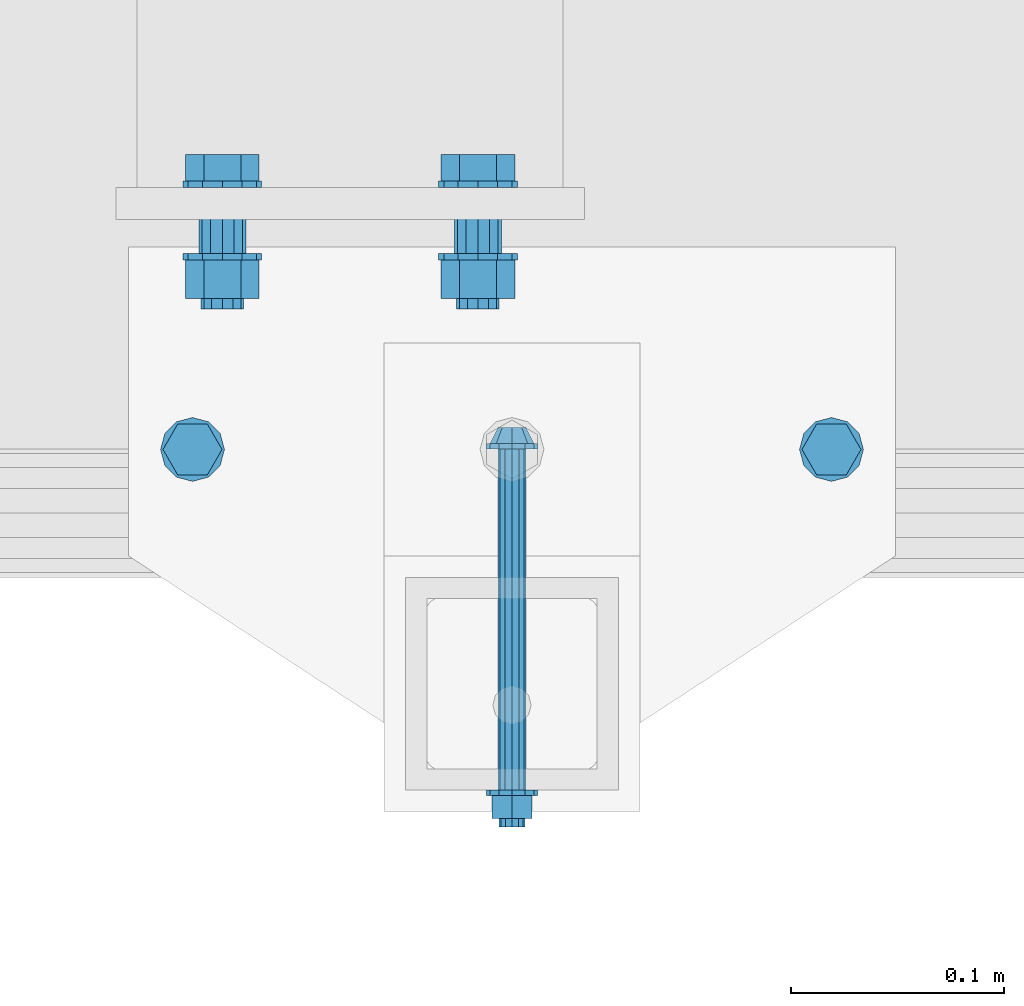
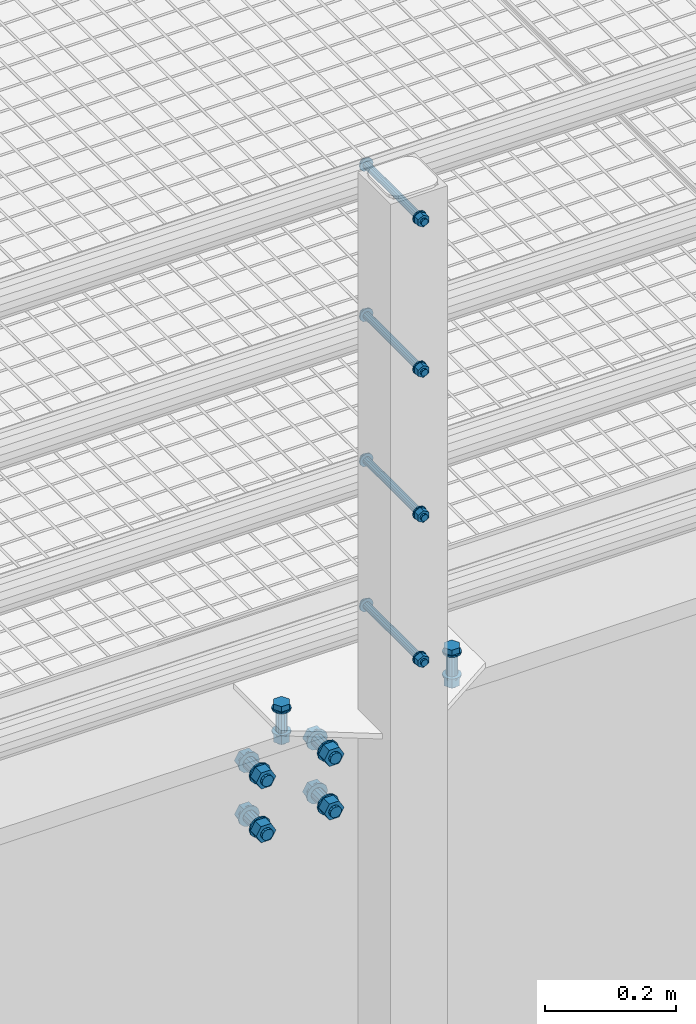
# One storey, part 9 of 1530: 6 mechanical fasteners.
"""IFC2X3 building model written with IfcOpenShell, lengths in millimetres."""

from ifc_helpers import new_model, si_unit, frame, origin_with_axes, place, context, subcontext, project, spatial, faceted_brep, source, transform, mapped, material, type_object, element, save


model = new_model("IFC2X3")

# Units and contexts
model_context = context("Model", 3, precision=1e-05, world=origin_with_axes())
body_context = subcontext(model_context, "Body", "Model", "MODEL_VIEW")
ifc_project = project(units=[si_unit("LENGTHUNIT", "METRE", prefix="MILLI"), si_unit("AREAUNIT", "SQUARE_METRE"), si_unit("VOLUMEUNIT", "CUBIC_METRE"), si_unit("MASSUNIT", "GRAM", prefix="KILO"), si_unit("TIMEUNIT", "SECOND"), si_unit("PLANEANGLEUNIT", "RADIAN"), si_unit("SOLIDANGLEUNIT", "STERADIAN"), si_unit("THERMODYNAMICTEMPERATUREUNIT", "DEGREE_CELSIUS"), si_unit("LUMINOUSINTENSITYUNIT", "LUMEN")], contexts=[model_context])

# Site, building, storey
site_placement = place(None, origin_with_axes())
site = spatial("IfcSite", under=ifc_project, at=site_placement, Name="Brattvåg", CompositionType="ELEMENT")
building_placement = place(site_placement, origin_with_axes())
building = spatial("IfcBuilding", under=site, at=building_placement, Name="Undefined", CompositionType="ELEMENT")
storey_placement = place(building_placement, origin_with_axes())
storey = spatial("IfcBuildingStorey", under=building, at=storey_placement, Name="Undefined", CompositionType="ELEMENT", Elevation=0.0)

# Mechanical fasteners
ifc_material = material(Name="8")
mechanical_fastener_type = type_object("IfcMechanicalFastenerType", Name="Bolt assembly")
shared_shape_1 = source(origin_with_axes(), body_context, "Body", "Brep", [
    faceted_brep([(6.49435320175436, -9.99984019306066, 0.0), (4.59220118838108, -9.99984019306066, 4.59220118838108), (3.97664443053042e-16, -9.99984019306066, 6.49435320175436), (-4.59220118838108, -9.99984019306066, 4.59220118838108), (-6.49435320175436, -9.99984019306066, 7.95328886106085e-16), (-4.59220118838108, -9.99984019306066, -4.59220118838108), (-1.19299332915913e-15, -9.99984019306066, -6.49435320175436), (4.59220118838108, -9.99984019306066, -4.59220118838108), (7.34846922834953, -2.49984019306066, -7.34846922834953), (-1.90903542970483e-15, -2.49984019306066, -10.3923048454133), (-7.34846922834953, -2.49984019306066, -7.34846922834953), (-10.3923048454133, -2.49984019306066, 1.27269028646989e-15), (-7.34846922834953, -2.49984019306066, 7.34846922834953), (6.36345143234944e-16, -2.49984019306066, 10.3923048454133), (7.34846922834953, -2.49984019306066, 7.34846922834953), (10.3923048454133, -2.49984019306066, 0.0), (6.0, -2.49984019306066, 0.0), (5.19615242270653, -2.49984019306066, 3.00000000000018), (2.99999999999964, -2.49984019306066, 5.19615242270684), (-6.21801588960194e-13, -2.49984019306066, 6.0), (-3.00000000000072, -2.49984019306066, 5.19615242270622), (-5.19615242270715, -2.49984019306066, 2.9999999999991), (-6.0, -2.49984019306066, -1.24360317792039e-12), (-5.19615242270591, -2.49984019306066, -3.00000000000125), (-2.99999999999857, -2.49984019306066, -5.19615242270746), (1.85874342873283e-12, -2.49984019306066, -6.0), (3.00000000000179, -2.49984019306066, -5.1961524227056), (5.19615242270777, -2.49984019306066, -2.99999999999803), (5.19615242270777, 177.500159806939, -2.99999999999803), (3.00000000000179, 177.500159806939, -5.1961524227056), (1.85874342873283e-12, 177.500159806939, -6.0), (-2.99999999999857, 177.500159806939, -5.19615242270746), (-5.19615242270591, 177.500159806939, -3.00000000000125), (-6.0, 177.500159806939, -1.24360317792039e-12), (-5.19615242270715, 177.500159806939, 2.9999999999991), (-3.00000000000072, 177.500159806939, 5.19615242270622), (-6.21801588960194e-13, 177.500159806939, 6.0), (2.99999999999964, 177.500159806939, 5.19615242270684), (5.19615242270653, 177.500159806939, 3.00000000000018), (6.0, 177.500159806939, 0.0), (12.0, -2.49984019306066, 0.0), (10.3923048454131, -2.49984019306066, 6.00000000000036), (5.99999999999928, -2.49984019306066, 10.3923048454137), (-1.24360317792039e-12, -2.49984019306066, 12.0), (-6.00000000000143, -2.49984019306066, 10.3923048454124), (-10.3923048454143, -2.49984019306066, 5.99999999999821), (-12.0, -2.49984019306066, -2.48720635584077e-12), (-10.3923048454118, -2.49984019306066, -6.00000000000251), (-5.99999999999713, -2.49984019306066, -10.3923048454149), (3.71748685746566e-12, -2.49984019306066, -12.0), (6.00000000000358, -2.49984019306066, -10.3923048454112), (10.3923048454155, -2.49984019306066, -5.99999999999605), (10.3923048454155, 0.000159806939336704, -5.99999999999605), (6.00000000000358, 0.000159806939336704, -10.3923048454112), (3.71748685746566e-12, 0.000159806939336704, -12.0), (-5.99999999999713, 0.000159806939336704, -10.3923048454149), (-10.3923048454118, 0.000159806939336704, -6.00000000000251), (-12.0, 0.000159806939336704, -2.48720635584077e-12), (-10.3923048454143, 0.000159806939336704, 5.99999999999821), (-6.00000000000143, 0.000159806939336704, 10.3923048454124), (-1.24360317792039e-12, 0.000159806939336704, 12.0), (5.99999999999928, 0.000159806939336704, 10.3923048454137), (10.3923048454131, 0.000159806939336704, 6.00000000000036), (12.0, 0.000159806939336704, 0.0), (12.0, 160.299998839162, 0.0), (10.3923048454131, 160.299998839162, 6.00000000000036), (5.99999999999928, 160.299998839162, 10.3923048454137), (-1.24360317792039e-12, 160.299998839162, 12.0), (-6.00000000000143, 160.299998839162, 10.3923048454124), (-10.3923048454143, 160.299998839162, 5.99999999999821), (-12.0, 160.299998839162, -2.48720635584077e-12), (-10.3923048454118, 160.299998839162, -6.00000000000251), (-5.99999999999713, 160.299998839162, -10.3923048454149), (3.71748685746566e-12, 160.299998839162, -12.0), (6.00000000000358, 160.299998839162, -10.3923048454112), (10.3923048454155, 160.299998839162, -5.99999999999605), (10.3923048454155, 162.799998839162, -5.99999999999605), (6.00000000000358, 162.799998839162, -10.3923048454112), (3.71748685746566e-12, 162.799998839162, -12.0), (-5.99999999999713, 162.799998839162, -10.3923048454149), (-10.3923048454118, 162.799998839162, -6.00000000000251), (-12.0, 162.799998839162, -2.48720635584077e-12), (-10.3923048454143, 162.799998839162, 5.99999999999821), (-6.00000000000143, 162.799998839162, 10.3923048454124), (-1.24360317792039e-12, 162.799998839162, 12.0), (5.99999999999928, 162.799998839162, 10.3923048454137), (10.3923048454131, 162.799998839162, 6.00000000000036), (12.0, 162.799998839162, 0.0), (10.9696551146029, 162.799998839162, 0.0), (5.48482755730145, 162.799998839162, 9.5), (-5.48482755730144, 162.799998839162, 9.5), (-10.9696551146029, 162.799998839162, 1.34339530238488e-15), (-5.48482755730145, 162.799998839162, -9.5), (5.48482755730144, 162.799998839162, -9.5), (5.48482755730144, 173.599999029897, -9.5), (-5.48482755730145, 173.599999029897, -9.5), (-10.9696551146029, 173.599999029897, 1.34339530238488e-15), (-5.48482755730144, 173.599999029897, 9.5), (5.48482755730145, 173.599999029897, 9.5), (10.9696551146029, 173.599999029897, 0.0)], [[[0, 1, 2, 3, 4, 5, 6, 7]], [[8, 9, 10, 11, 12, 13, 14, 15]], [[0, 15, 14, 1]], [[1, 14, 13, 2]], [[2, 13, 12, 3]], [[3, 12, 11, 4]], [[4, 11, 10, 5]], [[5, 10, 9, 6]], [[6, 9, 8, 7]], [[7, 8, 15, 0]], [[16, 17, 18, 19, 20, 21, 22, 23, 24, 25, 26, 27]], [[28, 29, 30, 31, 32, 33, 34, 35, 36, 37, 38, 39]], [[16, 39, 38, 17]], [[17, 38, 37, 18]], [[18, 37, 36, 19]], [[19, 36, 35, 20]], [[20, 35, 34, 21]], [[21, 34, 33, 22]], [[22, 33, 32, 23]], [[23, 32, 31, 24]], [[24, 31, 30, 25]], [[25, 30, 29, 26]], [[26, 29, 28, 27]], [[27, 28, 39, 16]], [[40, 41, 42, 43, 44, 45, 46, 47, 48, 49, 50, 51]], [[52, 53, 54, 55, 56, 57, 58, 59, 60, 61, 62, 63]], [[40, 63, 62, 41]], [[41, 62, 61, 42]], [[42, 61, 60, 43]], [[43, 60, 59, 44]], [[44, 59, 58, 45]], [[45, 58, 57, 46]], [[46, 57, 56, 47]], [[47, 56, 55, 48]], [[48, 55, 54, 49]], [[49, 54, 53, 50]], [[50, 53, 52, 51]], [[51, 52, 63, 40]], [[64, 65, 66, 67, 68, 69, 70, 71, 72, 73, 74, 75]], [[76, 77, 78, 79, 80, 81, 82, 83, 84, 85, 86, 87]], [[64, 87, 86, 65]], [[65, 86, 85, 66]], [[66, 85, 84, 67]], [[67, 84, 83, 68]], [[68, 83, 82, 69]], [[69, 82, 81, 70]], [[70, 81, 80, 71]], [[71, 80, 79, 72]], [[72, 79, 78, 73]], [[73, 78, 77, 74]], [[74, 77, 76, 75]], [[75, 76, 87, 64]], [[88, 89, 90, 91, 92, 93]], [[94, 95, 96, 97, 98, 99]], [[88, 99, 98, 89]], [[89, 98, 97, 90]], [[90, 97, 96, 91]], [[91, 96, 95, 92]], [[92, 95, 94, 93]], [[93, 94, 99, 88]]]),
    faceted_brep([(6.5, 0.100159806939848, 0.0), (5.62916512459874, 0.100159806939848, 3.25000000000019), (3.24999999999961, 0.100159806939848, 5.62916512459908), (-6.7361838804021e-13, 0.100159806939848, 6.5), (-3.25000000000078, 0.100159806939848, 5.6291651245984), (-5.62916512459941, 0.100159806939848, 3.24999999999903), (-6.5, 0.100159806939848, -1.34723677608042e-12), (-5.62916512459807, 0.100159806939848, -3.25000000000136), (-3.24999999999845, 0.100159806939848, -5.62916512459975), (2.01363871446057e-12, 0.100159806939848, -6.5), (3.25000000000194, 0.100159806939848, -5.62916512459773), (5.62916512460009, 0.100159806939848, -3.24999999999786), (5.62916512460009, 60.4001552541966, -3.24999999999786), (3.25000000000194, 60.4001552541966, -5.62916512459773), (2.01363871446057e-12, 60.4001552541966, -6.5), (-3.24999999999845, 60.4001552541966, -5.62916512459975), (-5.62916512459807, 60.4001552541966, -3.25000000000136), (-6.5, 60.4001552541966, -1.34723677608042e-12), (-5.62916512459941, 60.4001552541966, 3.24999999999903), (-3.25000000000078, 60.4001552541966, 5.6291651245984), (-6.7361838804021e-13, 60.4001552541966, 6.5), (3.24999999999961, 60.4001552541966, 5.62916512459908), (5.62916512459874, 60.4001552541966, 3.25000000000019), (6.5, 60.4001552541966, 0.0), (6.5, 60.1999988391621, 0.0), (5.62916512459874, 60.1999988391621, 3.25000000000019), (3.24999999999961, 60.1999988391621, 5.62916512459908), (-6.7361838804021e-13, 60.1999988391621, 6.5), (-3.25000000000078, 60.1999988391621, 5.6291651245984), (-5.62916512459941, 60.1999988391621, 3.24999999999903), (-6.5, 60.1999988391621, -1.34723677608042e-12), (-5.62916512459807, 60.1999988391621, -3.25000000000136), (-3.24999999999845, 60.1999988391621, -5.62916512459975), (2.01363871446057e-12, 60.1999988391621, -6.5), (3.25000000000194, 60.1999988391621, -5.62916512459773), (5.62916512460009, 60.1999988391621, -3.24999999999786), (5.62916512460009, 160.299998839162, -3.24999999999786), (3.25000000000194, 160.299998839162, -5.62916512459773), (2.01363871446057e-12, 160.299998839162, -6.5), (-3.24999999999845, 160.299998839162, -5.62916512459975), (-5.62916512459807, 160.299998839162, -3.25000000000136), (-6.5, 160.299998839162, -1.34723677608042e-12), (-5.62916512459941, 160.299998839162, 3.24999999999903), (-3.25000000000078, 160.299998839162, 5.6291651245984), (-6.7361838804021e-13, 160.299998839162, 6.5), (3.24999999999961, 160.299998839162, 5.62916512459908), (5.62916512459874, 160.299998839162, 3.25000000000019), (6.5, 160.299998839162, 0.0)], [[[0, 1, 2, 3, 4, 5, 6, 7, 8, 9, 10, 11]], [[12, 13, 14, 15, 16, 17, 18, 19, 20, 21, 22, 23]], [[0, 23, 22, 1]], [[1, 22, 21, 2]], [[2, 21, 20, 3]], [[3, 20, 19, 4]], [[4, 19, 18, 5]], [[5, 18, 17, 6]], [[6, 17, 16, 7]], [[7, 16, 15, 8]], [[8, 15, 14, 9]], [[9, 14, 13, 10]], [[10, 13, 12, 11]], [[11, 12, 23, 0]], [[24, 25, 26, 27, 28, 29, 30, 31, 32, 33, 34, 35]], [[36, 37, 38, 39, 40, 41, 42, 43, 44, 45, 46, 47]], [[24, 47, 46, 25]], [[25, 46, 45, 26]], [[26, 45, 44, 27]], [[27, 44, 43, 28]], [[28, 43, 42, 29]], [[29, 42, 41, 30]], [[30, 41, 40, 31]], [[31, 40, 39, 32]], [[32, 39, 38, 33]], [[33, 38, 37, 34]], [[34, 37, 36, 35]], [[35, 36, 47, 24]]]),
])
for number, where, z_axis, x_axis, name in (
    (1, (4149.9999999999, -99.6997226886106, 149.550000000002), (-1.0, 1.99999855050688e-09, 0.0), (0.0, 0.0, -1.0), "Bolt assembly"),
    (2, (4149.9999999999, -99.6997226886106, 419.550000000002), (-1.0, 1.99999855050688e-09, 0.0), (0.0, 0.0, -1.0), "Bolt assembly"),
    (3, (4149.9999999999, -99.6997226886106, 689.550000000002), (-1.0, 1.99999855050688e-09, 0.0), (0.0, 0.0, -1.0), "Bolt assembly"),
    (4, (4149.9999999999, -99.6997226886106, 969.550000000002), (-1.0, 1.99999855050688e-09, 0.0), (0.0, 0.0, -1.0), "Bolt assembly"),
):
    element("IfcMechanicalFastener", number, at=place(storey_placement, frame(where, z_axis=z_axis, x_axis=x_axis)), inside=storey, type_object=mechanical_fastener_type, material=ifc_material, Name=name, NominalDiameter=12.0, NominalLength=180.0, context=body_context, shape_type="MappedRepresentation", body=[
        mapped(shared_shape_1, transform((0.0, 0.0, 0.0))),
    ])
shared_shape_2 = source(origin_with_axes(), body_context, "Body", "Brep", [
    faceted_brep([(13.856406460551, -13.0, 0.0), (6.92820323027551, -13.0, 12.0), (-6.92820323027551, -13.0, 12.0), (-13.856406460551, -13.0, 1.69692038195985e-15), (-6.92820323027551, -13.0, -12.0), (6.9282032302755, -13.0, -12.0), (6.9282032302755, -3.0, -12.0), (-6.92820323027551, -3.0, -12.0), (-13.856406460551, -3.0, 1.69692038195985e-15), (-6.92820323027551, -3.0, 12.0), (6.92820323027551, -3.0, 12.0), (13.856406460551, -3.0, 0.0), (8.0, -3.0, 0.0), (6.92820323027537, -3.0, 4.00000000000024), (3.99999999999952, -3.0, 6.92820323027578), (-8.29068785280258e-13, -3.0, 8.0), (-4.00000000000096, -3.0, 6.92820323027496), (-6.9282032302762, -3.0, 3.99999999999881), (-8.0, -3.0, -1.65813757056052e-12), (-6.92820323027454, -3.0, -4.00000000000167), (-3.99999999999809, -3.0, -6.92820323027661), (2.47832457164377e-12, -3.0, -8.0), (4.00000000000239, -3.0, -6.92820323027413), (6.92820323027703, -3.0, -3.99999999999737), (6.92820323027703, 62.0000000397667, -3.99999999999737), (4.00000000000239, 62.0000000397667, -6.92820323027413), (2.47832457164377e-12, 62.0000000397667, -8.0), (-3.99999999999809, 62.0000000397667, -6.92820323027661), (-6.92820323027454, 62.0000000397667, -4.00000000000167), (-8.0, 62.0000000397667, -1.65813757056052e-12), (-6.9282032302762, 62.0000000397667, 3.99999999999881), (-4.00000000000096, 62.0000000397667, 6.92820323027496), (-8.29068785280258e-13, 62.0000000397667, 8.0), (3.99999999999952, 62.0000000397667, 6.92820323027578), (6.92820323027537, 62.0000000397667, 4.00000000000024), (8.0, 62.0000000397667, 0.0), (15.0, -3.0, 0.0), (12.9903810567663, -3.0, 7.50000000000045), (7.4999999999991, -3.0, 12.9903810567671), (-1.55450397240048e-12, -3.0, 15.0), (-7.50000000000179, -3.0, 12.9903810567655), (-12.9903810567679, -3.0, 7.49999999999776), (-15.0, -3.0, -3.10900794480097e-12), (-12.9903810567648, -3.0, -7.50000000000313), (-7.49999999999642, -3.0, -12.9903810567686), (4.64685857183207e-12, -3.0, -15.0), (7.50000000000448, -3.0, -12.990381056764), (12.9903810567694, -3.0, -7.49999999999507), (12.9903810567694, 0.0, -7.49999999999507), (7.50000000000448, 0.0, -12.990381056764), (0.0, 0.0, -15.0), (-7.49999999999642, 0.0, -12.9903810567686), (-12.9903810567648, 0.0, -7.50000000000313), (-15.0, 0.0, -3.10900794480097e-12), (-12.9903810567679, 0.0, 7.49999999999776), (-7.50000000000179, 0.0, 12.9903810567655), (0.0, 0.0, 15.0), (7.4999999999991, 0.0, 12.9903810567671), (12.9903810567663, 0.0, 7.50000000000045), (15.0, 0.0, 0.0), (15.0, 39.9997390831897, 0.0), (12.9903810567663, 39.9997390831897, 7.50000000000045), (7.4999999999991, 39.9997390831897, 12.9903810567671), (-1.55450397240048e-12, 39.9997390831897, 15.0), (-7.50000000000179, 39.9997390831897, 12.9903810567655), (-12.9903810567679, 39.9997390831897, 7.49999999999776), (-15.0, 39.9997390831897, -3.10900794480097e-12), (-12.9903810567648, 39.9997390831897, -7.50000000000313), (-7.49999999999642, 39.9997390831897, -12.9903810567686), (4.64685857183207e-12, 39.9997390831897, -15.0), (7.50000000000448, 39.9997390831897, -12.990381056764), (12.9903810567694, 39.9997390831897, -7.49999999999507), (12.9903810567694, 42.9997390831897, -7.49999999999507), (7.50000000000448, 42.9997390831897, -12.990381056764), (4.64685857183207e-12, 42.9997390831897, -15.0), (-7.49999999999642, 42.9997390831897, -12.9903810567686), (-12.9903810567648, 42.9997390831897, -7.50000000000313), (-15.0, 42.9997390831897, -3.10900794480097e-12), (-12.9903810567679, 42.9997390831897, 7.49999999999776), (-7.50000000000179, 42.9997390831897, 12.9903810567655), (-1.55450397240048e-12, 42.9997390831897, 15.0), (7.4999999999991, 42.9997390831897, 12.9903810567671), (12.9903810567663, 42.9997390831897, 7.50000000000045), (15.0, 42.9997390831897, 0.0), (13.856406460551, 42.9997390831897, 0.0), (6.92820323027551, 42.9997390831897, 12.0), (-6.92820323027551, 42.9997390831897, 12.0), (-13.856406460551, 42.9997390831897, 1.69692038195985e-15), (-6.92820323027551, 42.9997390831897, -12.0), (6.9282032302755, 42.9997390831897, -12.0), (6.9282032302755, 57.7997392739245, -12.0), (-6.92820323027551, 57.7997392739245, -12.0), (-13.856406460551, 57.7997392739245, 1.69692038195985e-15), (-6.92820323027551, 57.7997392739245, 12.0), (6.92820323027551, 57.7997392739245, 12.0), (13.856406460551, 57.7997392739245, 0.0)], [[[0, 1, 2, 3, 4, 5]], [[6, 7, 8, 9, 10, 11]], [[0, 11, 10, 1]], [[1, 10, 9, 2]], [[2, 9, 8, 3]], [[3, 8, 7, 4]], [[4, 7, 6, 5]], [[5, 6, 11, 0]], [[12, 13, 14, 15, 16, 17, 18, 19, 20, 21, 22, 23]], [[24, 25, 26, 27, 28, 29, 30, 31, 32, 33, 34, 35]], [[12, 35, 34, 13]], [[13, 34, 33, 14]], [[14, 33, 32, 15]], [[15, 32, 31, 16]], [[16, 31, 30, 17]], [[17, 30, 29, 18]], [[18, 29, 28, 19]], [[19, 28, 27, 20]], [[20, 27, 26, 21]], [[21, 26, 25, 22]], [[22, 25, 24, 23]], [[23, 24, 35, 12]], [[36, 37, 38, 39, 40, 41, 42, 43, 44, 45, 46, 47]], [[48, 49, 50, 51, 52, 53, 54, 55, 56, 57, 58, 59]], [[36, 59, 58, 37]], [[37, 58, 57, 38]], [[38, 57, 56, 39]], [[39, 56, 55, 40]], [[40, 55, 54, 41]], [[41, 54, 53, 42]], [[42, 53, 52, 43]], [[43, 52, 51, 44]], [[44, 51, 50, 45]], [[45, 50, 49, 46]], [[46, 49, 48, 47]], [[47, 48, 59, 36]], [[60, 61, 62, 63, 64, 65, 66, 67, 68, 69, 70, 71]], [[72, 73, 74, 75, 76, 77, 78, 79, 80, 81, 82, 83]], [[60, 83, 82, 61]], [[61, 82, 81, 62]], [[62, 81, 80, 63]], [[63, 80, 79, 64]], [[64, 79, 78, 65]], [[65, 78, 77, 66]], [[66, 77, 76, 67]], [[67, 76, 75, 68]], [[68, 75, 74, 69]], [[69, 74, 73, 70]], [[70, 73, 72, 71]], [[71, 72, 83, 60]], [[84, 85, 86, 87, 88, 89]], [[90, 91, 92, 93, 94, 95]], [[84, 95, 94, 85]], [[85, 94, 93, 86]], [[86, 93, 92, 87]], [[87, 92, 91, 88]], [[88, 91, 90, 89]], [[89, 90, 95, 84]]]),
    faceted_brep([(9.0, 0.1, 0.0), (7.79422863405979, 0.1, 4.50000000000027), (4.49999999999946, 0.1, 7.79422863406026), (-9.3270238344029e-13, 0.1, 9.0), (-4.50000000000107, 0.1, 7.79422863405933), (-7.79422863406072, 0.1, 4.49999999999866), (-9.0, 0.1, -1.86540476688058e-12), (-7.79422863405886, 0.1, -4.50000000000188), (-4.49999999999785, 0.1, -7.79422863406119), (2.78811514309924e-12, 0.1, -9.0), (4.50000000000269, 0.1, -7.7942286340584), (7.79422863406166, 0.1, -4.49999999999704), (7.79422863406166, 10.1, -4.49999999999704), (4.50000000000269, 10.1, -7.7942286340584), (2.78811514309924e-12, 10.1, -9.0), (-4.49999999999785, 10.1, -7.79422863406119), (-7.79422863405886, 10.1, -4.50000000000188), (-9.0, 10.1, -1.86540476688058e-12), (-7.79422863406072, 10.1, 4.49999999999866), (-4.50000000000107, 10.1, 7.79422863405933), (-9.3270238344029e-13, 10.1, 9.0), (4.49999999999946, 10.1, 7.79422863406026), (7.79422863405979, 10.1, 4.50000000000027), (9.0, 10.1, 0.0), (9.0, 9.8997390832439, 0.0), (7.79422863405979, 9.8997390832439, 4.50000000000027), (4.49999999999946, 9.8997390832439, 7.79422863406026), (-9.3270238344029e-13, 9.8997390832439, 9.0), (-4.50000000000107, 9.8997390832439, 7.79422863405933), (-7.79422863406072, 9.8997390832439, 4.49999999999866), (-9.0, 9.8997390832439, -1.86540476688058e-12), (-7.79422863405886, 9.8997390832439, -4.50000000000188), (-4.49999999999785, 9.8997390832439, -7.79422863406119), (2.78811514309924e-12, 9.8997390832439, -9.0), (4.50000000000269, 9.8997390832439, -7.7942286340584), (7.79422863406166, 9.8997390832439, -4.49999999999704), (7.79422863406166, 39.9997390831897, -4.49999999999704), (4.50000000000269, 39.9997390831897, -7.7942286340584), (2.78811514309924e-12, 39.9997390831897, -9.0), (-4.49999999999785, 39.9997390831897, -7.79422863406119), (-7.79422863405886, 39.9997390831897, -4.50000000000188), (-9.0, 39.9997390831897, -1.86540476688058e-12), (-7.79422863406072, 39.9997390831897, 4.49999999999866), (-4.50000000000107, 39.9997390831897, 7.79422863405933), (-9.3270238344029e-13, 39.9997390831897, 9.0), (4.49999999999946, 39.9997390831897, 7.79422863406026), (7.79422863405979, 39.9997390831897, 4.50000000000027), (9.0, 39.9997390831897, 0.0)], [[[0, 1, 2, 3, 4, 5, 6, 7, 8, 9, 10, 11]], [[12, 13, 14, 15, 16, 17, 18, 19, 20, 21, 22, 23]], [[0, 23, 22, 1]], [[1, 22, 21, 2]], [[2, 21, 20, 3]], [[3, 20, 19, 4]], [[4, 19, 18, 5]], [[5, 18, 17, 6]], [[6, 17, 16, 7]], [[7, 16, 15, 8]], [[8, 15, 14, 9]], [[9, 14, 13, 10]], [[10, 13, 12, 11]], [[11, 12, 23, 0]], [[24, 25, 26, 27, 28, 29, 30, 31, 32, 33, 34, 35]], [[36, 37, 38, 39, 40, 41, 42, 43, 44, 45, 46, 47]], [[24, 47, 46, 25]], [[25, 46, 45, 26]], [[26, 45, 44, 27]], [[27, 44, 43, 28]], [[28, 43, 42, 29]], [[29, 42, 41, 30]], [[30, 41, 40, 31]], [[31, 40, 39, 32]], [[32, 39, 38, 33]], [[33, 38, 37, 34]], [[34, 37, 36, 35]], [[35, 36, 47, 24]]]),
])
mechanical_fastener_1_placement = place(storey_placement, frame((4000.00080864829, -99.9996071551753, 9.99973908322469), z_axis=(0.0, 1.0, 0.0), x_axis=(1.0, 0.0, 0.0)))
element("IfcMechanicalFastener", 5, at=mechanical_fastener_1_placement, inside=storey, type_object=mechanical_fastener_type, material=ifc_material, Name="Bolt assembly", NominalDiameter=16.0, NominalLength=65.0, context=body_context, shape_type="MappedRepresentation", body=[
    mapped(shared_shape_2, transform((0.0, 0.0, 0.0))),
    mapped(shared_shape_2, transform((300.0, 0.0, 0.0))),
])
shared_shape_3 = source(origin_with_axes(), body_context, "Body", "Brep", [
    faceted_brep([(17.3205080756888, -15.5000000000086, 0.0), (8.66025403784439, -15.5000000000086, 15.0), (-8.66025403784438, -15.5000000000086, 15.0), (-17.3205080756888, -15.5000000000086, 2.12115047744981e-15), (-8.66025403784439, -15.5000000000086, -15.0), (8.66025403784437, -15.5000000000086, -15.0), (8.66025403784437, -3.00000000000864, -15.0), (-8.66025403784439, -3.00000000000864, -15.0), (-17.3205080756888, -3.00000000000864, 2.12115047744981e-15), (-8.66025403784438, -3.00000000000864, 15.0), (8.66025403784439, -3.00000000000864, 15.0), (17.3205080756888, -3.00000000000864, 0.0), (10.0, -3.00000000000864, 0.0), (8.66025403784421, -3.00000000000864, 5.0000000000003), (4.9999999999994, -3.00000000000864, 8.66025403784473), (-1.03633598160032e-12, -3.00000000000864, 10.0), (-5.00000000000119, -3.00000000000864, 8.6602540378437), (-8.66025403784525, -3.00000000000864, 4.99999999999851), (-10.0, -3.00000000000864, -2.07267196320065e-12), (-8.66025403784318, -3.00000000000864, -5.00000000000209), (-4.99999999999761, -3.00000000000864, -8.66025403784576), (3.09790571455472e-12, -3.00000000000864, -10.0), (5.00000000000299, -3.00000000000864, -8.66025403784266), (8.66025403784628, -3.00000000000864, -4.99999999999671), (8.66025403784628, 57.0, -4.99999999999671), (5.00000000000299, 57.0, -8.66025403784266), (3.09790571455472e-12, 57.0, -10.0), (-4.99999999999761, 57.0, -8.66025403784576), (-8.66025403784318, 57.0, -5.00000000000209), (-10.0, 57.0, -2.07267196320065e-12), (-8.66025403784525, 57.0, 4.99999999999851), (-5.00000000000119, 57.0, 8.6602540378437), (-1.03633598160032e-12, 57.0, 10.0), (4.9999999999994, 57.0, 8.66025403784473), (8.66025403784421, 57.0, 5.0000000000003), (10.0, 57.0, 0.0), (18.5, -3.00000000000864, 0.0), (16.0214699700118, -3.00000000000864, 9.25000000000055), (9.2499999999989, -3.00000000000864, 16.0214699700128), (-1.9172215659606e-12, -3.00000000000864, 18.5), (-9.25000000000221, -3.00000000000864, 16.0214699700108), (-16.0214699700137, -3.00000000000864, 9.24999999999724), (-18.5, -3.00000000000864, -3.83444313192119e-12), (-16.0214699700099, -3.00000000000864, -9.25000000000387), (-9.24999999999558, -3.00000000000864, -16.0214699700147), (5.73112557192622e-12, -3.00000000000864, -18.5), (9.25000000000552, -3.00000000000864, -16.0214699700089), (16.0214699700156, -3.00000000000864, -9.24999999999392), (16.0214699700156, -8.64019966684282e-12, -9.24999999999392), (9.25000000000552, -8.64019966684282e-12, -16.0214699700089), (5.73112557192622e-12, -8.64019966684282e-12, -18.5), (-9.24999999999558, -8.64019966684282e-12, -16.0214699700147), (-16.0214699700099, -8.64019966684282e-12, -9.25000000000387), (-18.5, -8.64019966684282e-12, -3.83444313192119e-12), (-16.0214699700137, -8.64019966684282e-12, 9.24999999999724), (-9.25000000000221, -8.64019966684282e-12, 16.0214699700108), (-1.9172215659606e-12, -8.64019966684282e-12, 18.5), (9.2499999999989, -8.64019966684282e-12, 16.0214699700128), (16.0214699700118, -8.64019966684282e-12, 9.25000000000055), (18.5, -8.64019966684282e-12, 0.0), (18.5, 31.0015563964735, 0.0), (16.0214699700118, 31.0015563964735, 9.25000000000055), (9.2499999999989, 31.0015563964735, 16.0214699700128), (-1.9172215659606e-12, 31.0015563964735, 18.5), (-9.25000000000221, 31.0015563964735, 16.0214699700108), (-16.0214699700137, 31.0015563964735, 9.24999999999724), (-18.5, 31.0015563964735, -3.83444313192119e-12), (-16.0214699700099, 31.0015563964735, -9.25000000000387), (-9.24999999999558, 31.0015563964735, -16.0214699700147), (5.73112557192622e-12, 31.0015563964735, -18.5), (9.25000000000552, 31.0015563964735, -16.0214699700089), (16.0214699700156, 31.0015563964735, -9.24999999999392), (16.0214699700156, 34.0015563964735, -9.24999999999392), (9.25000000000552, 34.0015563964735, -16.0214699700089), (5.73112557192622e-12, 34.0015563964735, -18.5), (-9.24999999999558, 34.0015563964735, -16.0214699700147), (-16.0214699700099, 34.0015563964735, -9.25000000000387), (-18.5, 34.0015563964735, -3.83444313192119e-12), (-16.0214699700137, 34.0015563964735, 9.24999999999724), (-9.25000000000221, 34.0015563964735, 16.0214699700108), (-1.9172215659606e-12, 34.0015563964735, 18.5), (9.2499999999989, 34.0015563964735, 16.0214699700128), (16.0214699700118, 34.0015563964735, 9.25000000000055), (18.5, 34.0015563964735, 0.0), (17.3205080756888, 34.0015563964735, 0.0), (8.66025403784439, 34.0015563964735, 15.0), (-8.66025403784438, 34.0015563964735, 15.0), (-17.3205080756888, 34.0015563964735, 2.12115047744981e-15), (-8.66025403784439, 34.0015563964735, -15.0), (8.66025403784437, 34.0015563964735, -15.0), (8.66025403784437, 52.0015563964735, -15.0), (-8.66025403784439, 52.0015563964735, -15.0), (-17.3205080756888, 52.0015563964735, 2.12115047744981e-15), (-8.66025403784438, 52.0015563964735, 15.0), (8.66025403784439, 52.0015563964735, 15.0), (17.3205080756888, 52.0015563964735, 0.0)], [[[0, 1, 2, 3, 4, 5]], [[6, 7, 8, 9, 10, 11]], [[0, 11, 10, 1]], [[1, 10, 9, 2]], [[2, 9, 8, 3]], [[3, 8, 7, 4]], [[4, 7, 6, 5]], [[5, 6, 11, 0]], [[12, 13, 14, 15, 16, 17, 18, 19, 20, 21, 22, 23]], [[24, 25, 26, 27, 28, 29, 30, 31, 32, 33, 34, 35]], [[12, 35, 34, 13]], [[13, 34, 33, 14]], [[14, 33, 32, 15]], [[15, 32, 31, 16]], [[16, 31, 30, 17]], [[17, 30, 29, 18]], [[18, 29, 28, 19]], [[19, 28, 27, 20]], [[20, 27, 26, 21]], [[21, 26, 25, 22]], [[22, 25, 24, 23]], [[23, 24, 35, 12]], [[36, 37, 38, 39, 40, 41, 42, 43, 44, 45, 46, 47]], [[48, 49, 50, 51, 52, 53, 54, 55, 56, 57, 58, 59]], [[36, 59, 58, 37]], [[37, 58, 57, 38]], [[38, 57, 56, 39]], [[39, 56, 55, 40]], [[40, 55, 54, 41]], [[41, 54, 53, 42]], [[42, 53, 52, 43]], [[43, 52, 51, 44]], [[44, 51, 50, 45]], [[45, 50, 49, 46]], [[46, 49, 48, 47]], [[47, 48, 59, 36]], [[60, 61, 62, 63, 64, 65, 66, 67, 68, 69, 70, 71]], [[72, 73, 74, 75, 76, 77, 78, 79, 80, 81, 82, 83]], [[60, 83, 82, 61]], [[61, 82, 81, 62]], [[62, 81, 80, 63]], [[63, 80, 79, 64]], [[64, 79, 78, 65]], [[65, 78, 77, 66]], [[66, 77, 76, 67]], [[67, 76, 75, 68]], [[68, 75, 74, 69]], [[69, 74, 73, 70]], [[70, 73, 72, 71]], [[71, 72, 83, 60]], [[84, 85, 86, 87, 88, 89]], [[90, 91, 92, 93, 94, 95]], [[84, 95, 94, 85]], [[85, 94, 93, 86]], [[86, 93, 92, 87]], [[87, 92, 91, 88]], [[88, 91, 90, 89]], [[89, 90, 95, 84]]]),
    faceted_brep([(11.0, 0.1, 0.0), (9.52627944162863, 0.1, 5.50000000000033), (5.49999999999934, 0.1, 9.5262794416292), (-1.13996957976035e-12, 0.1, 11.0), (-5.50000000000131, 0.1, 9.52627944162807), (-9.52627944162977, 0.1, 5.49999999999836), (-11.0, 0.1, -2.27993915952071e-12), (-9.5262794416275, 0.1, -5.5000000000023), (-5.49999999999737, 0.1, -9.52627944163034), (3.40769628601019e-12, 0.1, -11.0), (5.50000000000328, 0.1, -9.52627944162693), (9.52627944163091, 0.1, -5.49999999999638), (9.52627944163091, 15.1, -5.49999999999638), (5.50000000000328, 15.1, -9.52627944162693), (3.40769628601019e-12, 15.1, -11.0), (-5.49999999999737, 15.1, -9.52627944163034), (-9.5262794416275, 15.1, -5.5000000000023), (-11.0, 15.1, -2.27993915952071e-12), (-9.52627944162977, 15.1, 5.49999999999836), (-5.50000000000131, 15.1, 9.52627944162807), (-1.13996957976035e-12, 15.1, 11.0), (5.49999999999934, 15.1, 9.5262794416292), (9.52627944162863, 15.1, 5.50000000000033), (11.0, 15.1, 0.0), (11.0, 14.9015563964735, 0.0), (9.52627944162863, 14.9015563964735, 5.50000000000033), (5.49999999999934, 14.9015563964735, 9.5262794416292), (-1.13996957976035e-12, 14.9015563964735, 11.0), (-5.50000000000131, 14.9015563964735, 9.52627944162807), (-9.52627944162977, 14.9015563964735, 5.49999999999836), (-11.0, 14.9015563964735, -2.27993915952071e-12), (-9.5262794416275, 14.9015563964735, -5.5000000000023), (-5.49999999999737, 14.9015563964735, -9.52627944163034), (3.40769628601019e-12, 14.9015563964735, -11.0), (5.50000000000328, 14.9015563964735, -9.52627944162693), (9.52627944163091, 14.9015563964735, -5.49999999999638), (9.52627944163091, 31.0015563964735, -5.49999999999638), (5.50000000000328, 31.0015563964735, -9.52627944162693), (3.40769628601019e-12, 31.0015563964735, -11.0), (-5.49999999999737, 31.0015563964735, -9.52627944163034), (-9.5262794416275, 31.0015563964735, -5.5000000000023), (-11.0, 31.0015563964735, -2.27993915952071e-12), (-9.52627944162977, 31.0015563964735, 5.49999999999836), (-5.50000000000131, 31.0015563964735, 9.52627944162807), (-1.13996957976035e-12, 31.0015563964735, 11.0), (5.49999999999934, 31.0015563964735, 9.5262794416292), (9.52627944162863, 31.0015563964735, 5.50000000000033), (11.0, 31.0015563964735, 0.0)], [[[0, 1, 2, 3, 4, 5, 6, 7, 8, 9, 10, 11]], [[12, 13, 14, 15, 16, 17, 18, 19, 20, 21, 22, 23]], [[0, 23, 22, 1]], [[1, 22, 21, 2]], [[2, 21, 20, 3]], [[3, 20, 19, 4]], [[4, 19, 18, 5]], [[5, 18, 17, 6]], [[6, 17, 16, 7]], [[7, 16, 15, 8]], [[8, 15, 14, 9]], [[9, 14, 13, 10]], [[10, 13, 12, 11]], [[11, 12, 23, 0]], [[24, 25, 26, 27, 28, 29, 30, 31, 32, 33, 34, 35]], [[36, 37, 38, 39, 40, 41, 42, 43, 44, 45, 46, 47]], [[24, 47, 46, 25]], [[25, 46, 45, 26]], [[26, 45, 44, 27]], [[27, 44, 43, 28]], [[28, 43, 42, 29]], [[29, 42, 41, 30]], [[30, 41, 40, 31]], [[31, 40, 39, 32]], [[32, 39, 38, 33]], [[33, 38, 37, 34]], [[34, 37, 36, 35]], [[35, 36, 47, 24]]]),
])
mechanical_fastener_2_placement = place(storey_placement, frame((4134.00196838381, 23.0015563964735, -219.998836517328), z_axis=(0.0, 0.0, 1.0), x_axis=(-1.0, 1.99999855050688e-09, 0.0)))
element("IfcMechanicalFastener", 6, at=mechanical_fastener_2_placement, inside=storey, type_object=mechanical_fastener_type, material=ifc_material, Name="Bolt assembly", NominalDiameter=20.0, NominalLength=60.0, context=body_context, shape_type="MappedRepresentation", body=[
    mapped(shared_shape_3, transform((0.0, 0.0, -50.0))),
    mapped(shared_shape_3, transform((120.0, 0.0, -50.0))),
    mapped(shared_shape_3, transform((0.0, 0.0, 50.0))),
    mapped(shared_shape_3, transform((120.0, 0.0, 50.0))),
])

save(model, "model.ifc")
